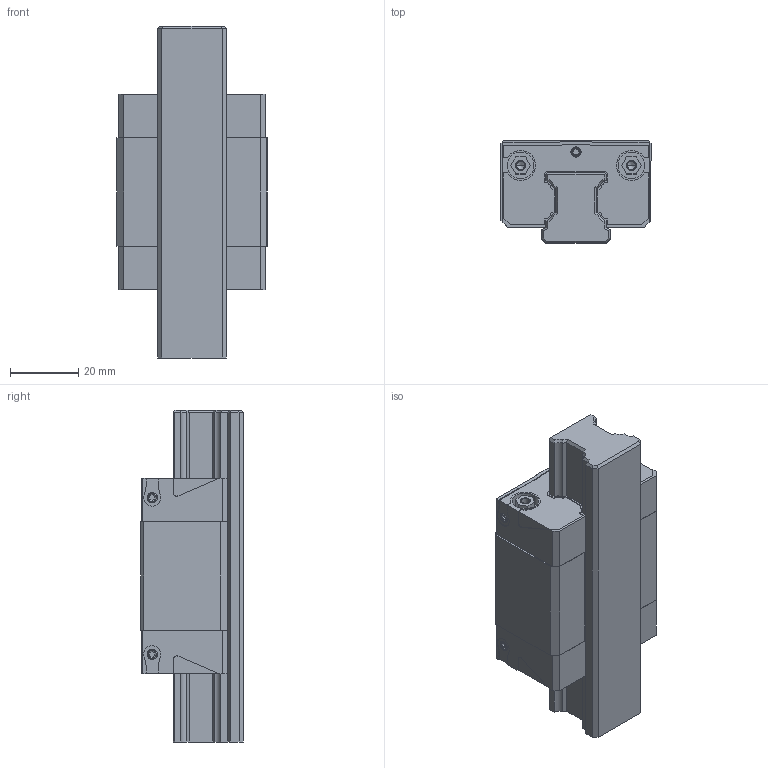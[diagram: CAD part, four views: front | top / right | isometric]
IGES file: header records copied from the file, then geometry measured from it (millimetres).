
Start section: 3D InterOp IGES (v. 2019 1.0.2), Spatial Corp. Copyright (c) 1999-2017.
Global section: file name: R1662_size20.igs; native system: Spatial Corp.; preprocessor: 3D InterOp GENERIC/IGES 3.0; author: Noname; organization: Noname; date: 20220629.125012; units: millimetre
Bounding box: 44 x 30 x 97.3 mm (x, y, z)
Surface area: 27637.9 mm2 (no closed solid volume)
Topology: 0 solids, 0 shells, 481 faces, 2506 edges, 2486 vertices
Faces by surface type: extrusion 288, revolution 193
